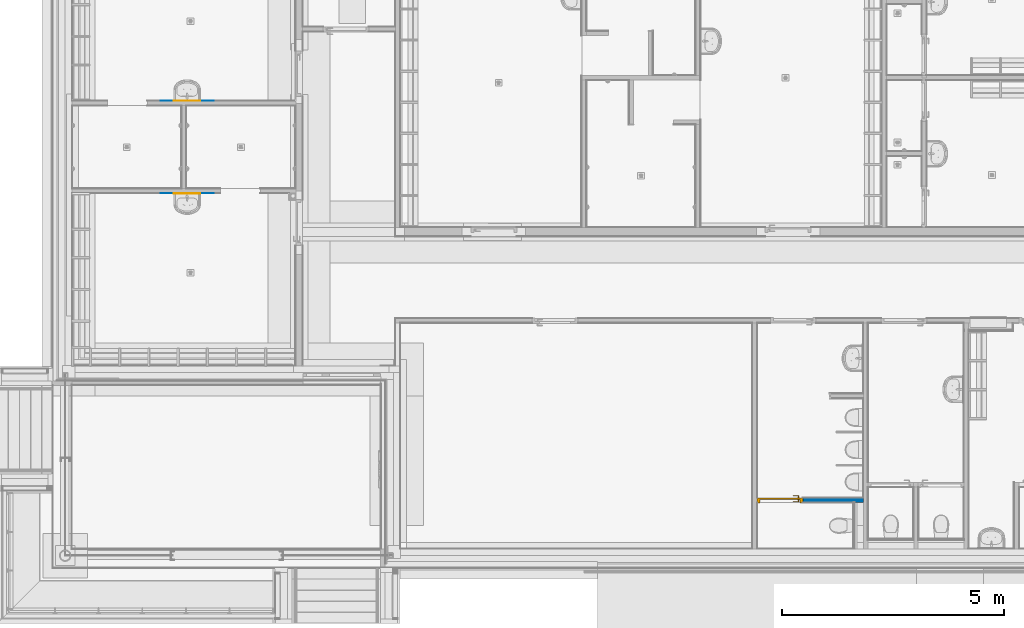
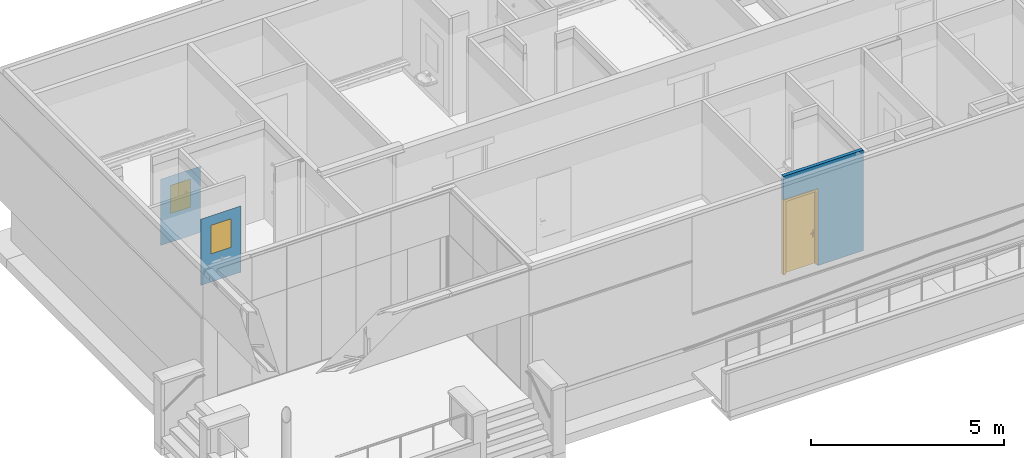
# One storey, part 1 of 788: 3 walls, 2 windows, 1 door, 3 openings.
"""IFC2X3 building model written with IfcOpenShell, lengths in millimetres."""

from ifc_helpers import new_model, entity, si_unit, converted_unit, derived_unit, money_unit, direction, frame, origin_with_axes, place, context, subcontext, project, spatial, faceted_brep, source, transform, mapped, material, type_object, type_shapes, element, fill, save


model = new_model("IFC2X3")

# Units and contexts
model_context = context("Model", 3, precision=0.01, world=origin_with_axes(), true_north=direction((0.0, 1.0)))
plan_context = context("Plan", 3, precision=0.01, world=origin_with_axes(), true_north=direction((0.0, 1.0)))
body_context = subcontext(model_context, "Body", "Model", "MODEL_VIEW")
ifc_project = project(units=[si_unit("LENGTHUNIT", "METRE", prefix="MILLI"), si_unit("AREAUNIT", "SQUARE_METRE"), si_unit("VOLUMEUNIT", "CUBIC_METRE"), converted_unit("PLANEANGLEUNIT", "DEGREE", entity("IfcPlaneAngleMeasure", 0.0174532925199), si_unit("PLANEANGLEUNIT", "RADIAN"), dimensions=[0, 0, 0, 0, 0, 0, 0]), money_unit("EUR"), converted_unit("TIMEUNIT", "Year", entity("IfcTimeMeasure", 31556926.0), si_unit("TIMEUNIT", "SECOND"), dimensions=[0, 0, 1, 0, 0, 0, 0]), si_unit("MASSUNIT", "GRAM", prefix="KILO"), si_unit("THERMODYNAMICTEMPERATUREUNIT", "DEGREE_CELSIUS"), si_unit("LUMINOUSINTENSITYUNIT", "LUMEN"), si_unit("ENERGYUNIT", "JOULE", prefix="MEGA"), derived_unit("THERMALCONDUCTANCEUNIT", [(si_unit("POWERUNIT", "WATT"), 1), (si_unit("LENGTHUNIT", "METRE"), -1), (si_unit("THERMODYNAMICTEMPERATUREUNIT", "KELVIN"), -1)]), derived_unit("SPECIFICHEATCAPACITYUNIT", [(si_unit("ENERGYUNIT", "JOULE"), 1), (si_unit("MASSUNIT", "GRAM", prefix="KILO"), -1), (si_unit("THERMODYNAMICTEMPERATUREUNIT", "KELVIN"), -1)]), derived_unit("MASSDENSITYUNIT", [(si_unit("MASSUNIT", "GRAM", prefix="KILO"), 1), (si_unit("VOLUMEUNIT", "CUBIC_METRE"), -1)])], contexts=[model_context, plan_context])

# Site, building, storey
site_placement = place(None, origin_with_axes())
site = spatial("IfcSite", under=ifc_project, at=site_placement, Name="Site", CompositionType="ELEMENT")
building_placement = place(site_placement, origin_with_axes())
building = spatial("IfcBuilding", under=site, at=building_placement, Name="Naam gebouw", CompositionType="ELEMENT")
storey_placement = place(building_placement, origin_with_axes())
storey = spatial("IfcBuildingStorey", under=building, at=storey_placement, Name="Begane grond", CompositionType="ELEMENT", Elevation=0.0)

# Wall, opening, door
ifc_material_1 = material(Name="Steen - Betonblok C")
wall_type_1 = type_object("IfcWallType", Name="22 Binnenwand NC_betonblok 100mm 100", PredefinedType="ELEMENTEDWALL")
wall_1_placement = place(storey_placement, frame((67336.0166564, -56903.9527257, 830.0), z_axis=(0.0, 0.0, 1.0), x_axis=(-1.0, 0.0, 0.0)))
wall_1 = element("IfcWall", 1, at=wall_1_placement, inside=storey, type_object=wall_type_1, material=ifc_material_1, Name="Binnenwand", context=body_context, shape_type="Brep", body=[
    faceted_brep([(1366.0, -100.0, 2447.0), (2400.0, -100.0, 2447.0), (2400.0, -100.0, 3190.0), (0.0, -100.0, 3190.0), (0.0, -100.0, 0.0), (1366.0, -100.0, 0.0), (1366.0, -100.0, 70.0), (1366.0, 0.0, 2447.0), (2400.0, 0.0, 2447.0), (2400.0, 0.0, 3190.0), (0.0, 0.0, 3190.0), (0.0, 0.0, 0.0), (1366.0, 0.0, 0.0), (1366.0, 0.0, 70.0)], [[[0, 1, 2, 3, 4, 5, 6]], [[1, 0, 7, 8]], [[1, 8, 9, 2]], [[3, 2, 9, 10]], [[10, 11, 4, 3]], [[12, 5, 4, 11]], [[13, 6, 5, 12]], [[0, 6, 13, 7]], [[7, 13, 12, 11, 10, 9, 8]]]),
])
opening_1_placement = place(wall_1_placement, frame((1883.0, 0.0, 70.0), z_axis=(0.0, 0.0, 1.0), x_axis=(1.0, 0.0, 0.0)))
opening_1 = element("IfcOpeningElement", 2, at=opening_1_placement, cuts=wall_1, Name="b1.13-sp", context=body_context, shape_type="Brep", body=[
    faceted_brep([(517.0, -200.0, 2377.0), (517.0, -200.0, 0.0), (517.0, 100.0, 0.0), (517.0, 100.0, 2377.0), (-517.0, -200.0, 2377.0), (-517.0, -200.0, 0.0), (-517.0, 100.0, 0.0), (-517.0, 100.0, 2377.0)], [[[0, 1, 2, 3]], [[0, 4, 5, 1]], [[1, 5, 6, 2]], [[3, 2, 6, 7]], [[4, 0, 3, 7]], [[5, 4, 7, 6]]]),
])
door_style = type_object("IfcDoorStyle", Name="D1 25", ConstructionType="NOTDEFINED", OperationType="SINGLE_SWING_LEFT", ParameterTakesPrecedence=False, Sizeable=False)
shared_shape_1 = source(origin_with_axes(), body_context, "Body", "Brep", [
    faceted_brep([(450.0, -40.0, 0.0), (450.0, -114.0, 0.0), (450.0, -114.0, 2310.0), (450.0, -40.0, 2310.0), (467.0, -40.0, 0.0), (467.0, 0.0, 0.0), (517.0, 0.0, 0.0), (517.0, -114.0, 0.0), (517.0, -114.0, 2310.0), (467.0, -40.0, 2310.0), (517.0, 0.0, 2310.0), (467.0, 0.0, 2310.0)], [[[0, 1, 2, 3]], [[4, 5, 6, 7, 1, 0]], [[1, 7, 8, 2]], [[9, 3, 2, 8, 10, 11]], [[9, 4, 0, 3]], [[11, 5, 4, 9]], [[11, 10, 6, 5]], [[6, 10, 8, 7]]]),
    faceted_brep([(-467.0, -40.0, 2310.0), (-467.0, 0.0, 2310.0), (-517.0, 0.0, 2310.0), (-517.0, -114.0, 2310.0), (-450.0, -114.0, 2310.0), (-450.0, -40.0, 2310.0), (-467.0, -40.0, 0.0), (-467.0, 0.0, 0.0), (-517.0, 0.0, 0.0), (-517.0, -114.0, 0.0), (-450.0, -114.0, 0.0), (-450.0, -40.0, 0.0)], [[[0, 1, 2, 3, 4, 5]], [[0, 6, 7, 1]], [[7, 8, 2, 1]], [[2, 8, 9, 3]], [[3, 9, 10, 4]], [[5, 4, 10, 11]], [[5, 11, 6, 0]], [[6, 11, 10, 9, 8, 7]]]),
    faceted_brep([(467.0, 0.0, 2327.0), (-467.0, 0.0, 2327.0), (-467.0, 0.0, 2310.0), (-517.0, 0.0, 2310.0), (-517.0, 0.0, 2377.0), (517.0, 0.0, 2377.0), (517.0, 0.0, 2310.0), (467.0, 0.0, 2310.0), (467.0, -40.0, 2327.0), (-467.0, -40.0, 2327.0), (-467.0, -40.0, 2310.0), (-450.0, -40.0, 2310.0), (-450.0, -114.0, 2310.0), (-517.0, -114.0, 2310.0), (-517.0, -114.0, 2377.0), (517.0, -114.0, 2377.0), (517.0, -114.0, 2310.0), (467.0, -40.0, 2310.0), (450.0, -114.0, 2310.0), (450.0, -40.0, 2310.0)], [[[0, 1, 2, 3, 4, 5, 6, 7]], [[0, 8, 9, 1]], [[1, 9, 10, 2]], [[10, 11, 12, 13, 3, 2]], [[4, 3, 13, 14]], [[5, 4, 14, 15]], [[6, 5, 15, 16]], [[17, 7, 6, 16, 18, 19]], [[7, 17, 8, 0]], [[10, 9, 8, 17, 19, 11]], [[19, 18, 12, 11]], [[12, 18, 16, 15, 14, 13]]]),
    faceted_brep([(421.702282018, -80.0, 1006.47213595), (421.702282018, -60.0, 1006.47213595), (417.0, -60.0, 1008.0), (417.0, -80.0, 1008.0), (424.60845213, -80.0, 1002.47213595), (424.60845213, -60.0, 1002.47213595), (422.877852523, -58.0, 1008.09016994), (417.0, -58.0, 1010.0), (412.297717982, -60.0, 1006.47213595), (412.297717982, -80.0, 1006.47213595), (409.39154787, -80.0, 1002.47213595), (409.39154787, -80.0, 997.527864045), (412.297717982, -80.0, 993.527864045), (417.0, -80.0, 992.0), (421.702282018, -80.0, 993.527864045), (424.60845213, -80.0, 997.527864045), (424.60845213, -60.0, 997.527864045), (426.510565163, -58.0, 1003.09016994), (422.877852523, -50.0, 1008.09016994), (417.0, -50.0, 1010.0), (411.122147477, -58.0, 1008.09016994), (409.39154787, -60.0, 1002.47213595), (409.39154787, -60.0, 997.527864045), (412.297717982, -60.0, 993.527864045), (417.0, -60.0, 992.0), (421.702282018, -60.0, 993.527864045), (426.510565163, -58.0, 996.909830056), (426.510565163, -50.0, 1003.09016994), (426.510565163, -50.0, 996.909830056), (422.877852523, -50.0, 991.909830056), (417.0, -50.0, 990.0), (411.122147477, -50.0, 991.909830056), (407.489434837, -50.0, 996.909830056), (407.489434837, -50.0, 1003.09016994), (411.122147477, -50.0, 1008.09016994), (407.489434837, -58.0, 1003.09016994), (407.489434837, -58.0, 996.909830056), (411.122147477, -58.0, 991.909830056), (417.0, -58.0, 990.0), (422.877852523, -58.0, 991.909830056)], [[[0, 1, 2, 3]], [[4, 5, 1, 0]], [[1, 6, 7, 2]], [[3, 2, 8, 9]], [[3, 9, 10, 11, 12, 13, 14, 15, 4, 0]], [[15, 16, 5, 4]], [[5, 17, 6, 1]], [[6, 18, 19, 7]], [[2, 7, 20, 8]], [[9, 8, 21, 10]], [[10, 21, 22, 11]], [[11, 22, 23, 12]], [[12, 23, 24, 13]], [[13, 24, 25, 14]], [[14, 25, 16, 15]], [[16, 26, 17, 5]], [[17, 27, 18, 6]], [[19, 18, 27, 28, 29, 30, 31, 32, 33, 34]], [[7, 19, 34, 20]], [[8, 20, 35, 21]], [[21, 35, 36, 22]], [[22, 36, 37, 23]], [[23, 37, 38, 24]], [[24, 38, 39, 25]], [[25, 39, 26, 16]], [[26, 28, 27, 17]], [[39, 29, 28, 26]], [[38, 30, 29, 39]], [[37, 31, 30, 38]], [[36, 32, 31, 37]], [[35, 33, 32, 36]], [[20, 34, 33, 35]]]),
    faceted_brep([(404.811616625, -50.0, 1067.59695641), (400.2, -50.0, 1060.0), (394.5, -50.0, 1060.0), (394.5, -50.0, 840.0), (400.2, -50.0, 840.0), (404.811616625, -50.0, 832.403043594), (412.556444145, -50.0, 828.044328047), (421.443555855, -50.0, 828.044328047), (429.188383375, -50.0, 832.403043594), (433.8, -50.0, 840.0), (439.5, -50.0, 840.0), (439.5, -50.0, 1060.0), (433.8, -50.0, 1060.0), (429.188383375, -50.0, 1067.59695641), (421.443555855, -50.0, 1071.95567195), (412.556444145, -50.0, 1071.95567195), (417.0, -50.0, 917.425445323), (422.375182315, -50.0, 915.143815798), (424.467830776, -50.0, 909.692280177), (422.0, -50.0, 904.4), (422.0, -50.0, 887.5), (420.535533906, -50.0, 883.964466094), (417.0, -50.0, 882.5), (413.464466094, -50.0, 883.964466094), (412.0, -50.0, 887.5), (412.0, -50.0, 904.4), (409.532169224, -50.0, 909.692280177), (411.624817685, -50.0, 915.143815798), (404.811616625, -40.0, 1067.59695641), (400.2, -40.0, 1060.0), (394.5, -40.0, 1060.0), (394.5, -40.0, 840.0), (400.2, -40.0, 840.0), (404.811616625, -40.0, 832.403043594), (412.556444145, -40.0, 828.044328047), (421.443555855, -40.0, 828.044328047), (429.188383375, -40.0, 832.403043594), (433.8, -40.0, 840.0), (439.5, -40.0, 840.0), (439.5, -40.0, 1060.0), (433.8, -40.0, 1060.0), (429.188383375, -40.0, 1067.59695641), (421.443555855, -40.0, 1071.95567195), (412.556444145, -40.0, 1071.95567195), (417.0, -40.0, 917.425445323), (422.375182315, -40.0, 915.143815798), (424.467830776, -40.0, 909.692280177), (422.0, -40.0, 904.4), (422.0, -40.0, 887.5), (420.535533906, -40.0, 883.964466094), (417.0, -40.0, 882.5), (413.464466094, -40.0, 883.964466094), (412.0, -40.0, 887.5), (412.0, -40.0, 904.4), (409.532169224, -40.0, 909.692280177), (411.624817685, -40.0, 915.143815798)], [[[0, 1, 2, 3, 4, 5, 6, 7, 8, 9, 10, 11, 12, 13, 14, 15], [16, 17, 18, 19, 20, 21, 22, 23, 24, 25, 26, 27]], [[0, 28, 29, 1]], [[1, 29, 30, 2]], [[2, 30, 31, 3]], [[3, 31, 32, 4]], [[4, 32, 33, 5]], [[5, 33, 34, 6]], [[6, 34, 35, 7]], [[7, 35, 36, 8]], [[8, 36, 37, 9]], [[9, 37, 38, 10]], [[10, 38, 39, 11]], [[11, 39, 40, 12]], [[12, 40, 41, 13]], [[13, 41, 42, 14]], [[14, 42, 43, 15]], [[15, 43, 28, 0]], [[16, 44, 45, 17]], [[17, 45, 46, 18]], [[18, 46, 47, 19]], [[47, 48, 20, 19]], [[21, 20, 48, 49]], [[22, 21, 49, 50]], [[23, 22, 50, 51]], [[24, 23, 51, 52]], [[25, 24, 52, 53]], [[25, 53, 54, 26]], [[26, 54, 55, 27]], [[27, 55, 44, 16]], [[32, 31, 30, 29, 28, 43, 42, 41, 40, 39, 38, 37, 36, 35, 34, 33], [46, 45, 44, 55, 54, 53, 52, 51, 50, 49, 48, 47]]]),
    faceted_brep([(302.747, -80.0, 1007.158), (302.745508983, -80.0, 1007.19388416), (302.745508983, -95.0, 1007.19388416), (302.747, -95.0, 1007.158), (329.774630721, -80.0, 1014.32652034), (357.602743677, -80.0, 1017.06086405), (385.508740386, -80.0, 1015.29002982), (412.768, -80.0, 1009.06), (419.170575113, -80.0, 1009.76125134), (424.672633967, -80.0, 1006.41280843), (426.991512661, -80.0, 1000.40385485), (425.165167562, -80.0, 994.227352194), (419.951302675, -80.0, 990.445773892), (413.513017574, -80.0, 990.628000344), (408.521392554, -80.0, 994.698430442), (408.542, -80.0, 994.666), (383.253286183, -80.0, 1000.19878945), (357.410818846, -80.0, 1001.71460194), (331.648684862, -80.0, 999.176244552), (306.599, -80.0, 992.646), (301.055815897, -80.0, 993.568490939), (297.69427449, -80.0, 998.071591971), (298.385844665, -80.0, 1003.64829442), (298.385844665, -95.0, 1003.64829442), (297.69427449, -95.0, 998.071591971), (301.055815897, -95.0, 993.568490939), (306.599, -95.0, 992.646), (331.648684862, -95.0, 999.176244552), (357.410818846, -95.0, 1001.71460194), (383.253286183, -95.0, 1000.19878945), (408.542, -95.0, 994.666), (408.521392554, -95.0, 994.698430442), (413.513017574, -95.0, 990.628000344), (419.951302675, -95.0, 990.445773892), (425.165167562, -95.0, 994.227352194), (426.991512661, -95.0, 1000.40385485), (424.672633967, -95.0, 1006.41280843), (419.170575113, -95.0, 1009.76125134), (412.768, -95.0, 1009.06), (385.508740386, -95.0, 1015.29002982), (357.602743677, -95.0, 1017.06086405), (329.774630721, -95.0, 1014.32652034)], [[[0, 1, 2, 3]], [[0, 4, 5, 6, 7, 8, 9, 10, 11, 12, 13, 14, 15, 16, 17, 18, 19, 20, 21, 22, 1]], [[1, 22, 23, 2]], [[3, 2, 23, 24, 25, 26, 27, 28, 29, 30, 31, 32, 33, 34, 35, 36, 37, 38, 39, 40, 41]], [[4, 0, 3, 41]], [[5, 4, 41, 40]], [[6, 5, 40, 39]], [[7, 6, 39, 38]], [[8, 7, 38, 37]], [[9, 8, 37, 36]], [[10, 9, 36, 35]], [[11, 10, 35, 34]], [[12, 11, 34, 33]], [[13, 12, 33, 32]], [[14, 13, 32, 31]], [[15, 14, 31, 30]], [[16, 15, 30, 29]], [[17, 16, 29, 28]], [[18, 17, 28, 27]], [[19, 18, 27, 26]], [[20, 19, 26, 25]], [[21, 20, 25, 24]], [[22, 21, 24, 23]]]),
    faceted_brep([(421.702282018, 40.0, 1006.47213595), (417.0, 40.0, 1008.0), (417.0, 20.0, 1008.0), (421.702282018, 20.0, 1006.47213595), (424.60845213, 40.0, 1002.47213595), (424.60845213, 40.0, 997.527864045), (421.702282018, 40.0, 993.527864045), (417.0, 40.0, 992.0), (412.297717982, 40.0, 993.527864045), (409.39154787, 40.0, 997.527864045), (409.39154787, 40.0, 1002.47213595), (412.297717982, 40.0, 1006.47213595), (412.297717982, 20.0, 1006.47213595), (417.0, 18.0, 1010.0), (422.877852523, 18.0, 1008.09016994), (424.60845213, 20.0, 1002.47213595), (424.60845213, 20.0, 997.527864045), (421.702282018, 20.0, 993.527864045), (417.0, 20.0, 992.0), (412.297717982, 20.0, 993.527864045), (409.39154787, 20.0, 997.527864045), (409.39154787, 20.0, 1002.47213595), (411.122147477, 18.0, 1008.09016994), (417.0, 10.0, 1010.0), (422.877852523, 10.0, 1008.09016994), (426.510565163, 18.0, 1003.09016994), (426.510565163, 18.0, 996.909830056), (422.877852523, 18.0, 991.909830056), (417.0, 18.0, 990.0), (411.122147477, 18.0, 991.909830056), (407.489434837, 18.0, 996.909830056), (407.489434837, 18.0, 1003.09016994), (411.122147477, 10.0, 1008.09016994), (407.489434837, 10.0, 1003.09016994), (407.489434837, 10.0, 996.909830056), (411.122147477, 10.0, 991.909830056), (417.0, 10.0, 990.0), (422.877852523, 10.0, 991.909830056), (426.510565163, 10.0, 996.909830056), (426.510565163, 10.0, 1003.09016994)], [[[0, 1, 2, 3]], [[1, 0, 4, 5, 6, 7, 8, 9, 10, 11]], [[1, 11, 12, 2]], [[3, 2, 13, 14]], [[4, 0, 3, 15]], [[5, 4, 15, 16]], [[6, 5, 16, 17]], [[7, 6, 17, 18]], [[8, 7, 18, 19]], [[9, 8, 19, 20]], [[10, 9, 20, 21]], [[11, 10, 21, 12]], [[2, 12, 22, 13]], [[14, 13, 23, 24]], [[15, 3, 14, 25]], [[16, 15, 25, 26]], [[17, 16, 26, 27]], [[18, 17, 27, 28]], [[19, 18, 28, 29]], [[20, 19, 29, 30]], [[21, 20, 30, 31]], [[12, 21, 31, 22]], [[13, 22, 32, 23]], [[23, 32, 33, 34, 35, 36, 37, 38, 39, 24]], [[25, 14, 24, 39]], [[26, 25, 39, 38]], [[27, 26, 38, 37]], [[28, 27, 37, 36]], [[29, 28, 36, 35]], [[30, 29, 35, 34]], [[31, 30, 34, 33]], [[22, 31, 33, 32]]]),
    faceted_brep([(404.811616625, 0.0, 1067.59695641), (400.2, 0.0, 1060.0), (394.5, 0.0, 1060.0), (394.5, 0.0, 840.0), (400.2, 0.0, 840.0), (404.811616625, 0.0, 832.403043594), (412.556444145, 0.0, 828.044328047), (421.443555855, 0.0, 828.044328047), (429.188383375, 0.0, 832.403043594), (433.8, 0.0, 840.0), (439.5, 0.0, 840.0), (439.5, 0.0, 1060.0), (433.8, 0.0, 1060.0), (429.188383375, 0.0, 1067.59695641), (421.443555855, 0.0, 1071.95567195), (412.556444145, 0.0, 1071.95567195), (417.0, 0.0, 917.425445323), (422.375182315, 0.0, 915.143815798), (424.467830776, 0.0, 909.692280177), (422.0, 0.0, 904.4), (422.0, 0.0, 887.5), (420.535533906, 0.0, 883.964466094), (417.0, 0.0, 882.5), (413.464466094, 0.0, 883.964466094), (412.0, 0.0, 887.5), (412.0, 0.0, 904.4), (409.532169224, 0.0, 909.692280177), (411.624817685, 0.0, 915.143815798), (404.811616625, 10.0, 1067.59695641), (400.2, 10.0, 1060.0), (394.5, 10.0, 1060.0), (394.5, 10.0, 840.0), (400.2, 10.0, 840.0), (404.811616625, 10.0, 832.403043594), (412.556444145, 10.0, 828.044328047), (421.443555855, 10.0, 828.044328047), (429.188383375, 10.0, 832.403043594), (433.8, 10.0, 840.0), (439.5, 10.0, 840.0), (439.5, 10.0, 1060.0), (433.8, 10.0, 1060.0), (429.188383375, 10.0, 1067.59695641), (421.443555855, 10.0, 1071.95567195), (412.556444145, 10.0, 1071.95567195), (417.0, 10.0, 917.425445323), (422.375182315, 10.0, 915.143815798), (424.467830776, 10.0, 909.692280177), (422.0, 10.0, 904.4), (422.0, 10.0, 887.5), (420.535533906, 10.0, 883.964466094), (417.0, 10.0, 882.5), (413.464466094, 10.0, 883.964466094), (412.0, 10.0, 887.5), (412.0, 10.0, 904.4), (409.532169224, 10.0, 909.692280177), (411.624817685, 10.0, 915.143815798)], [[[0, 1, 2, 3, 4, 5, 6, 7, 8, 9, 10, 11, 12, 13, 14, 15], [16, 17, 18, 19, 20, 21, 22, 23, 24, 25, 26, 27]], [[28, 29, 1, 0]], [[29, 30, 2, 1]], [[30, 31, 3, 2]], [[31, 32, 4, 3]], [[32, 33, 5, 4]], [[33, 34, 6, 5]], [[34, 35, 7, 6]], [[35, 36, 8, 7]], [[36, 37, 9, 8]], [[37, 38, 10, 9]], [[38, 39, 11, 10]], [[39, 40, 12, 11]], [[40, 41, 13, 12]], [[41, 42, 14, 13]], [[42, 43, 15, 14]], [[43, 28, 0, 15]], [[16, 44, 45, 17]], [[17, 45, 46, 18]], [[18, 46, 47, 19]], [[47, 48, 20, 19]], [[21, 20, 48, 49]], [[22, 21, 49, 50]], [[23, 22, 50, 51]], [[24, 23, 51, 52]], [[25, 24, 52, 53]], [[25, 53, 54, 26]], [[26, 54, 55, 27]], [[27, 55, 44, 16]], [[32, 31, 30, 29, 28, 43, 42, 41, 40, 39, 38, 37, 36, 35, 34, 33], [46, 45, 44, 55, 54, 53, 52, 51, 50, 49, 48, 47]]]),
    faceted_brep([(302.747, 40.0, 1007.158), (302.747, 55.0, 1007.158), (302.745508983, 55.0, 1007.19388416), (302.745508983, 40.0, 1007.19388416), (329.774630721, 40.0, 1014.32652034), (329.774630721, 55.0, 1014.32652034), (357.602743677, 55.0, 1017.06086405), (385.508740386, 55.0, 1015.29002982), (412.768, 55.0, 1009.06), (419.170575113, 55.0, 1009.76125134), (424.672633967, 55.0, 1006.41280843), (426.991512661, 55.0, 1000.40385485), (425.165167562, 55.0, 994.227352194), (419.951302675, 55.0, 990.445773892), (413.513017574, 55.0, 990.628000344), (408.521392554, 55.0, 994.698430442), (408.542, 55.0, 994.666), (383.253286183, 55.0, 1000.19878945), (357.410818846, 55.0, 1001.71460194), (331.648684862, 55.0, 999.176244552), (306.599, 55.0, 992.646), (301.055815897, 55.0, 993.568490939), (297.69427449, 55.0, 998.071591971), (298.385844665, 55.0, 1003.64829442), (298.385844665, 40.0, 1003.64829442), (297.69427449, 40.0, 998.071591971), (301.055815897, 40.0, 993.568490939), (306.599, 40.0, 992.646), (331.648684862, 40.0, 999.176244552), (357.410818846, 40.0, 1001.71460194), (383.253286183, 40.0, 1000.19878945), (408.542, 40.0, 994.666), (408.521392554, 40.0, 994.698430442), (413.513017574, 40.0, 990.628000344), (419.951302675, 40.0, 990.445773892), (425.165167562, 40.0, 994.227352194), (426.991512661, 40.0, 1000.40385485), (424.672633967, 40.0, 1006.41280843), (419.170575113, 40.0, 1009.76125134), (412.768, 40.0, 1009.06), (385.508740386, 40.0, 1015.29002982), (357.602743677, 40.0, 1017.06086405)], [[[0, 1, 2, 3]], [[4, 5, 1, 0]], [[1, 5, 6, 7, 8, 9, 10, 11, 12, 13, 14, 15, 16, 17, 18, 19, 20, 21, 22, 23, 2]], [[3, 2, 23, 24]], [[0, 3, 24, 25, 26, 27, 28, 29, 30, 31, 32, 33, 34, 35, 36, 37, 38, 39, 40, 41, 4]], [[41, 6, 5, 4]], [[40, 7, 6, 41]], [[39, 8, 7, 40]], [[38, 9, 8, 39]], [[37, 10, 9, 38]], [[36, 11, 10, 37]], [[35, 12, 11, 36]], [[34, 13, 12, 35]], [[33, 14, 13, 34]], [[32, 15, 14, 33]], [[31, 16, 15, 32]], [[30, 17, 16, 31]], [[29, 18, 17, 30]], [[28, 19, 18, 29]], [[27, 20, 19, 28]], [[26, 21, 20, 27]], [[25, 22, 21, 26]], [[24, 23, 22, 25]]]),
    faceted_brep([(-467.0, 0.0, 0.0), (467.0, 0.0, 0.0), (467.0, -40.0, 0.0), (-467.0, -40.0, 0.0), (-467.0, 0.0, 2327.0), (467.0, 0.0, 2327.0), (467.0, -40.0, 2327.0), (-467.0, -40.0, 2327.0)], [[[0, 1, 2, 3]], [[0, 4, 5, 1]], [[1, 5, 6, 2]], [[3, 2, 6, 7]], [[4, 0, 3, 7]], [[5, 4, 7, 6]]]),
])
type_shapes(door_style, [shared_shape_1])
door_placement = place(opening_1_placement, frame((517.0, 0.0, 0.0), z_axis=(0.0, 0.0, 1.0), x_axis=(-1.0, 0.0, 0.0)))
door = element("IfcDoor", 3, at=door_placement, inside=storey, type_object=door_style, Name="b1.13-sp", ObjectType="DOOR", OverallHeight=2377.0, OverallWidth=1034.0, context=body_context, shape_type="MappedRepresentation", body=[
    mapped(shared_shape_1, transform((517.0, 100.0, 0.0))),
])
fill(opening_1, door)

# Wall, opening, window
ifc_material_2 = material(Name="AFW - Wandtegelwerk")
wall_type_2 = type_object("IfcWallType", Name="AFW - Wandtegelwerk 5", PredefinedType="ELEMENTEDWALL")
wall_2_placement = place(storey_placement, frame((51486.0166564, -47846.0015915, 1050.0), z_axis=(0.0, 0.0, 1.0), x_axis=(1.0, -1.18031214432e-09, 0.0)))
wall_2 = element("IfcWall", 4, at=wall_2_placement, inside=storey, type_object=wall_type_2, material=ifc_material_2, Name="Wandtegelwerk", context=body_context, shape_type="Brep", body=[
    faceted_brep([(5.89750470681e-09, -5.0, 2100.0), (1200.00000001, -4.99999858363, 2100.0), (1200.0, 1.41637457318e-06, 2100.0), (0.0, 0.0, 2100.0), (5.89750470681e-09, -5.0, 0.0), (1200.00000001, -4.99999858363, 0.0), (1200.0, 1.41637457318e-06, 0.0), (0.0, 0.0, 0.0)], [[[0, 1, 2, 3]], [[4, 5, 1, 0]], [[2, 1, 5, 6]], [[3, 2, 6, 7]], [[4, 0, 3, 7]], [[7, 6, 5, 4]]]),
])
opening_2_placement = place(wall_2_placement, frame((600.002017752, 0.0, 900.0), z_axis=(0.0, 0.0, 1.0), x_axis=(1.0, 0.0, 0.0)))
opening_2 = element("IfcOpeningElement", 5, at=opening_2_placement, cuts=wall_2, Name="nis tbv luifel", context=body_context, shape_type="Brep", body=[
    faceted_brep([(-1.20392143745e-06, 1015.00000071, 0.0), (-10.0000011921, 1005.0000007, 0.0), (-10.0000011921, 1005.0000007, 10.0), (-1.20392143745e-06, 1015.00000071, 10.0), (9.99999880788, 1005.00000072, 0.0), (9.99999880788, 1005.00000072, 10.0)], [[[0, 1, 2, 3]], [[0, 4, 1]], [[1, 4, 5, 2]], [[3, 2, 5]], [[4, 0, 3, 5]]]),
])
window_style = type_object("IfcWindowStyle", Name="R Uitstulping 25", ConstructionType="NOTDEFINED", OperationType="NOTDEFINED", ParameterTakesPrecedence=False, Sizeable=False)
shared_shape_2 = source(origin_with_axes(), body_context, "Body", "Brep", [
    faceted_brep([(-300.0, 0.0, 0.0), (300.0, 0.0, 0.0), (300.0, 0.0, 900.0), (-300.0, 0.0, 900.0), (-300.0, 5.0, 0.0), (300.0, 5.0, 0.0), (300.0, 5.0, 900.0), (-300.0, 5.0, 900.0)], [[[0, 1, 2, 3]], [[0, 4, 5, 1]], [[1, 5, 6, 2]], [[3, 2, 6, 7]], [[4, 0, 3, 7]], [[5, 4, 7, 6]]]),
])
type_shapes(window_style, [shared_shape_2])
window_1_placement = place(opening_2_placement, frame((-300.0, 0.0, 0.0), z_axis=(0.0, 0.0, 1.0), x_axis=(1.0, 0.0, 0.0)))
window_1 = element("IfcWindow", 6, at=window_1_placement, inside=storey, type_object=window_style, material=ifc_material_2, Name="nis tbv luifel", ObjectType="WINDOW", OverallHeight=900.0, OverallWidth=600.0, context=body_context, shape_type="MappedRepresentation", body=[
    mapped(shared_shape_2, transform((299.999999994, 7.08197944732e-07, 0.0))),
])
fill(opening_2, window_1)

wall_3_placement = place(storey_placement, frame((51486.0166564, -49937.0018337, 1050.0), z_axis=(0.0, 0.0, 1.0), x_axis=(1.0, 1.18031214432e-09, 0.0)))
wall_3 = element("IfcWall", 7, at=wall_3_placement, inside=storey, type_object=wall_type_2, material=ifc_material_2, Name="Wandtegelwerk", context=body_context, shape_type="Brep", body=[
    faceted_brep([(5.89750470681e-09, 5.0, 0.0), (1200.00000001, 4.99999858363, 0.0), (1200.0, -1.41637457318e-06, 0.0), (0.0, 0.0, 0.0), (5.89750470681e-09, 5.0, 2100.0), (1200.00000001, 4.99999858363, 2100.0), (1200.0, -1.41637457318e-06, 2100.0), (0.0, 0.0, 2100.0)], [[[0, 1, 2, 3]], [[4, 5, 1, 0]], [[2, 1, 5, 6]], [[3, 2, 6, 7]], [[4, 0, 3, 7]], [[7, 6, 5, 4]]]),
])
opening_3_placement = place(wall_3_placement, frame((600.002017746, 0.0, 900.0), z_axis=(0.0, 0.0, 1.0), x_axis=(1.0, 0.0, 0.0)))
opening_3 = element("IfcOpeningElement", 8, at=opening_3_placement, cuts=wall_3, Name="nis tbv luifel", context=body_context, shape_type="Brep", body=[
    faceted_brep([(-1.19801695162e-06, -1015.00000071, 0.0), (9.99999881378, -1005.00000072, 0.0), (9.99999881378, -1005.00000072, 10.0), (-1.19801695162e-06, -1015.00000071, 10.0), (-10.0000011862, -1005.0000007, 0.0), (-10.0000011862, -1005.0000007, 10.0)], [[[0, 1, 2, 3]], [[0, 4, 1]], [[1, 4, 5, 2]], [[3, 2, 5]], [[4, 0, 3, 5]]]),
])
window_2_placement = place(opening_3_placement, frame((300.0, 0.0, 0.0), z_axis=(0.0, 0.0, 1.0), x_axis=(-1.0, 0.0, 0.0)))
window_2 = element("IfcWindow", 9, at=window_2_placement, inside=storey, type_object=window_style, material=ifc_material_2, Name="nis tbv luifel", ObjectType="WINDOW", OverallHeight=900.0, OverallWidth=600.0, context=body_context, shape_type="MappedRepresentation", body=[
    mapped(shared_shape_2, transform((300.0, 7.08190839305e-07, 0.0))),
])
fill(opening_3, window_2)

save(model, "model.ifc")
